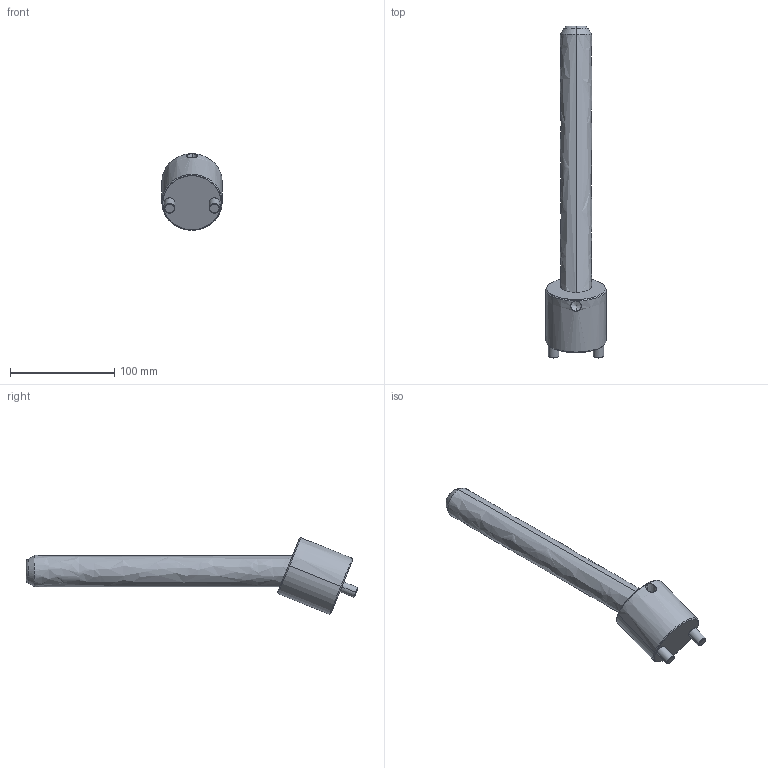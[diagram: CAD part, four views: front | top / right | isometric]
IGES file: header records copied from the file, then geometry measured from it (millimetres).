
Start section: START RECORD GO HERE.
Global section: file name: CI2230250.igs; native system: DASSAULT SYSTEMES CATIA V5 R20 - www.3ds.com; preprocessor: CATIA Version 5 Release 20 ; author: r.borello; organization: CFTORINO; date: 20190624.090155; units: millimetre
Bounding box: 58 x 318.84 x 73.63 mm (x, y, z)
Surface area: 49573.4 mm2 (no closed solid volume)
Topology: 0 solids, 0 shells, 39 faces, 168 edges, 166 vertices
Faces by surface type: revolution 32, plane 7
